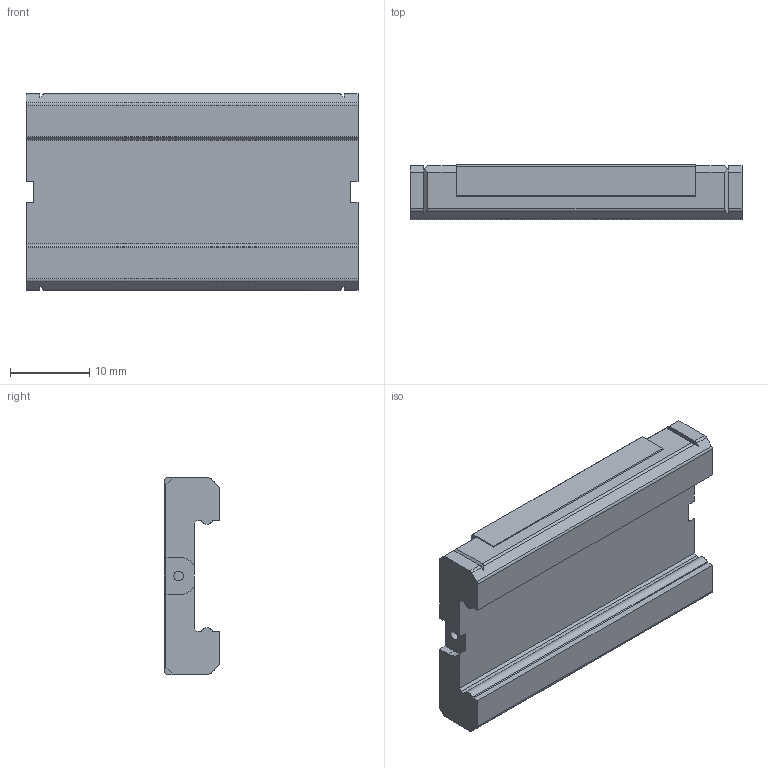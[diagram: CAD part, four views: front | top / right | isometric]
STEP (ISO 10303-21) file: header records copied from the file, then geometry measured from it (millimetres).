
FILE_DESCRIPTION(/* description */ ('STEP AP214'),/* implementation_level */ '2;1');
FILE_NAME(/* name */ 'SRS7WNUU(GK) BLOCK(1)',/* time_stamp */ '2023-06-01T09:53:41+02:00',/* author */ ('License CC BY-ND 4.0'),/* organization */ ('CADENAS'),/* preprocessor_version */ 'ST-DEVELOPER v19.3',/* originating_system */ 'PARTsolutions',/* authorisation */ ' ');
FILE_SCHEMA (('AUTOMOTIVE_DESIGN {1 0 10303 214 3 1 1}'));
Length unit declared in the file: millimetre
Products named in the file (2): SRS7WNUU(GK) BLOCK(1); SRS7WNUU1 S
Assembly tree (1 placements, depth 2):
  SRS7WNUU(GK) BLOCK(1)
    SRS7WNUU1 S
Bounding box: 42 x 7 x 25 mm (x, y, z)
Volume: 5229.4 mm3; surface area: 3302.6 mm2
Topology: 1 solids, 1 shells, 96 faces, 268 edges, 176 vertices
Faces by surface type: plane 63, cylinder 25, cone 8
Full cylindrical faces by diameter (mm): 1.2 x2, 2.459 x4
Entity records: 2989 total; most frequent: CARTESIAN_POINT 516, DIRECTION 500, ORIENTED_EDGE 492, EDGE_CURVE 246, LINE 188, VECTOR 188, VERTEX_POINT 172, AXIS2_PLACEMENT_3D 156
